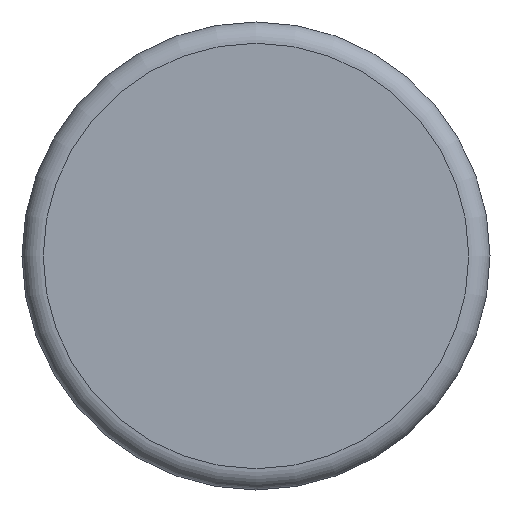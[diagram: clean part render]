
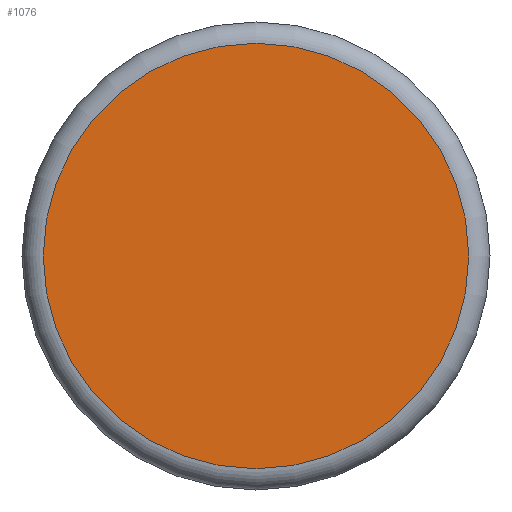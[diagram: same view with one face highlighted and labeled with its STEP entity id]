
A CAD part, front view. The second image highlights one B-rep face of the part: STEP entity #1076.
In plain terms, the highlighted planar face has unit normal (0, -1, 0).
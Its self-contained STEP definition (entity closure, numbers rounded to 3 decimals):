
#71=PLANE('',#1145);
#130=FACE_OUTER_BOUND('',#198,.T.);
#198=EDGE_LOOP('',(#976,#977));
#441=CIRCLE('',#1146,20.);
#442=CIRCLE('',#1147,20.);
#542=VERTEX_POINT('',#2279);
#543=VERTEX_POINT('',#2280);
#688=EDGE_CURVE('',#542,#543,#441,.T.);
#689=EDGE_CURVE('',#543,#542,#442,.T.);
#976=ORIENTED_EDGE('',*,*,#688,.F.);
#977=ORIENTED_EDGE('',*,*,#689,.F.);
#1076=ADVANCED_FACE('',(#130),#71,.F.);
#1145=AXIS2_PLACEMENT_3D('',#2278,#1361,#1362);
#1146=AXIS2_PLACEMENT_3D('',#2281,#1363,#1364);
#1147=AXIS2_PLACEMENT_3D('',#2282,#1365,#1366);
#1361=DIRECTION('center_axis',(0.,1.,0.));
#1362=DIRECTION('ref_axis',(0.,0.,1.));
#1363=DIRECTION('center_axis',(0.,1.,0.));
#1364=DIRECTION('ref_axis',(1.,0.,0.));
#1365=DIRECTION('center_axis',(0.,1.,0.));
#1366=DIRECTION('ref_axis',(1.,0.,0.));
#2278=CARTESIAN_POINT('Origin',(0.,0.,0.));
#2279=CARTESIAN_POINT('',(-20.,0.,0.));
#2280=CARTESIAN_POINT('',(0.,0.,-20.));
#2281=CARTESIAN_POINT('Origin',(0.,0.,0.));
#2282=CARTESIAN_POINT('Origin',(0.,0.,0.));
